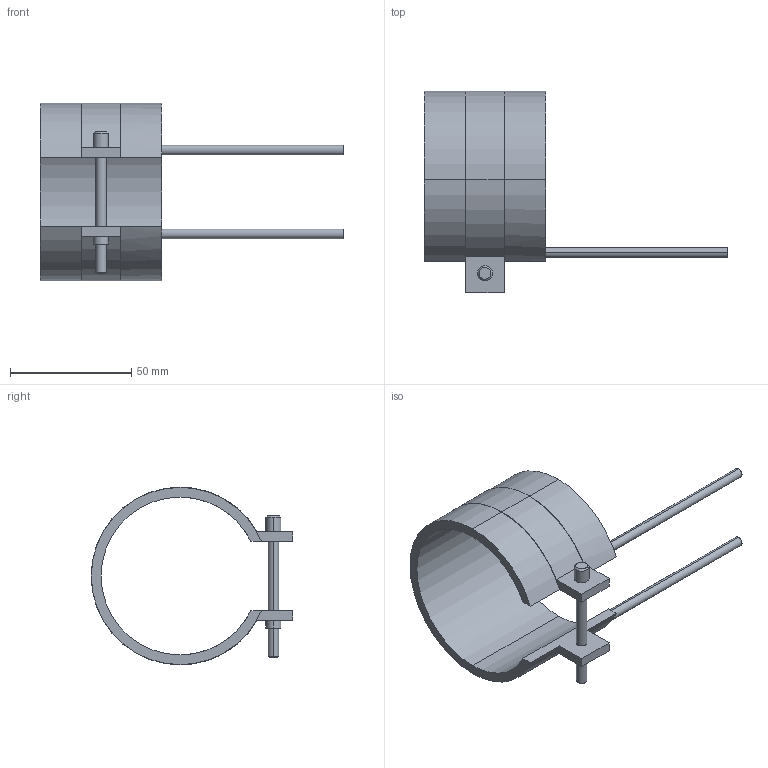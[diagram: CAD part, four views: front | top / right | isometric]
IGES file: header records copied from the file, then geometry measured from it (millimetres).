
Start section: START RECORD GO HERE.
Global section: file name: 14065050.igs; native system: DASSAULT SYSTEMES CATIA V5 R20 - www.3ds.com; preprocessor: CATIA Version 5 Release 20 ; author: Utente; organization: NB04-ASUS; date: 20210403.091916; units: millimetre
Bounding box: 125 x 83.1 x 73.2 mm (x, y, z)
Surface area: 24402.9 mm2 (no closed solid volume)
Topology: 0 solids, 0 shells, 45 faces, 232 edges, 232 vertices
Faces by surface type: revolution 28, plane 17
